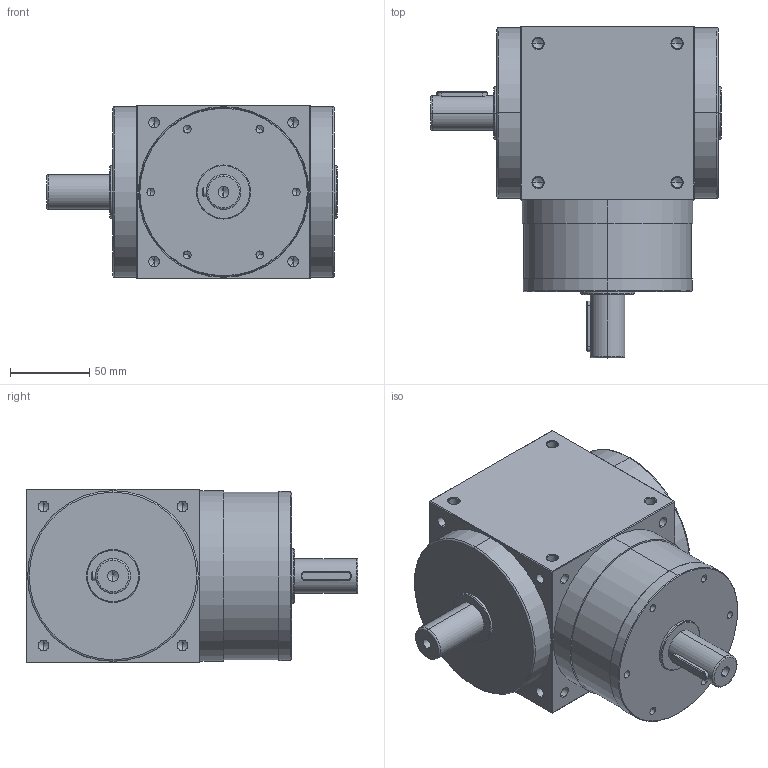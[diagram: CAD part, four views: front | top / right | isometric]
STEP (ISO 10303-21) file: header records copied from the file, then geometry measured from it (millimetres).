
FILE_DESCRIPTION (( 'STEP AP214' ), '1' );
FILE_NAME ('AT110-L1-001.STEP', '2019-10-11T02:19:14', ( 'User' ), ( 'Far123' ), 'SwSTEP 2.0', 'SolidWorks 2015', '' );
FILE_SCHEMA (( 'AUTOMOTIVE_DESIGN' ));
Length unit declared in the file: millimetre
Products named in the file (1): AT110-L1-001
Bounding box: 184 x 210 x 110 mm (x, y, z)
Volume: 2142787.4 mm3; surface area: 117536.9 mm2
Topology: 1 solids, 1 shells, 274 faces, 724 edges, 400 vertices
Faces by surface type: cylinder 136, cone 84, plane 46, torus 8
Entity records: 9298 total; most frequent: CARTESIAN_POINT 1939, ORIENTED_EDGE 1320, DIRECTION 1254, EDGE_CURVE 660, AXIS2_PLACEMENT_3D 483, VERTEX_POINT 400, EDGE_LOOP 318, LINE 288
